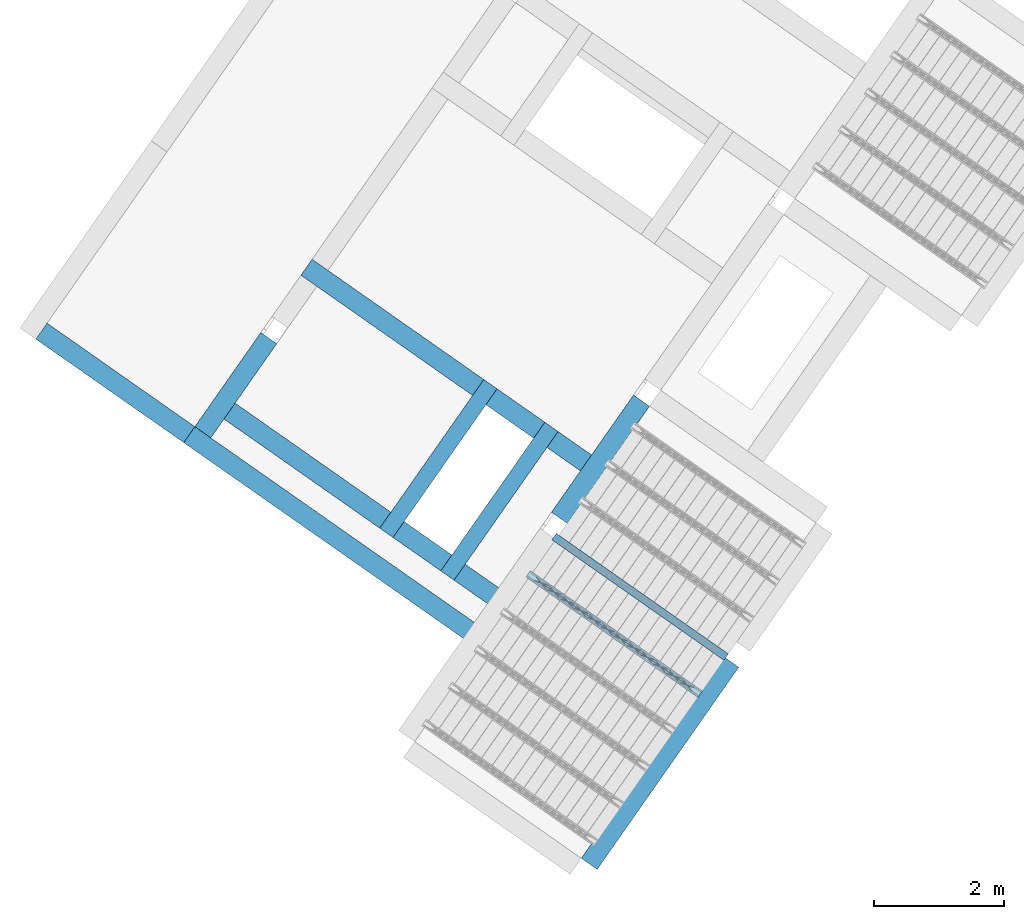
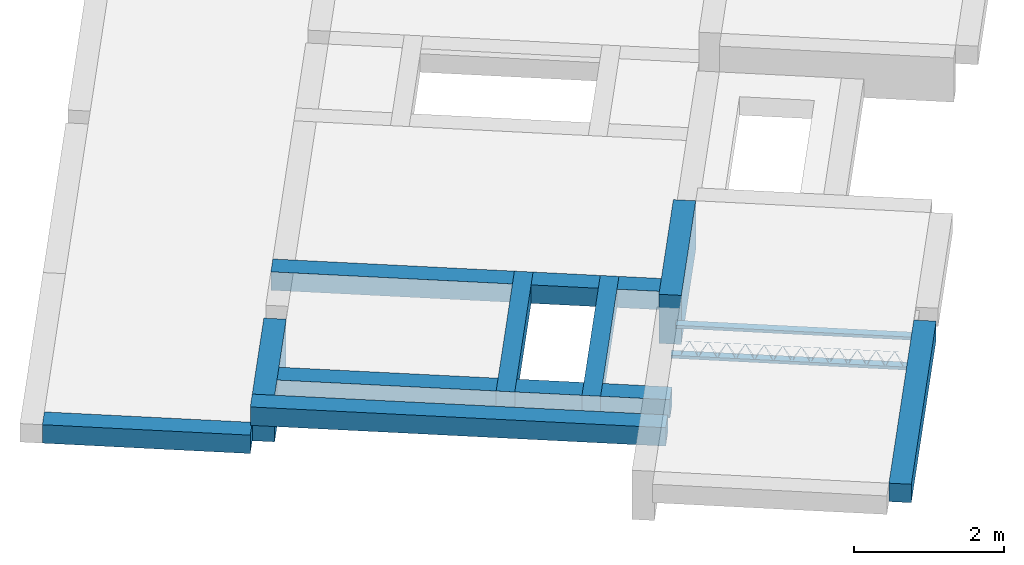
# One storey, part 10 of 46: 11 beams.
"""IFC2X3 building model written with IfcOpenShell, lengths in metres."""

from ifc_helpers import new_model, entity, si_unit, converted_unit, derived_unit, direction, frame, frame_2d, origin, origin_2d_with_axis, place, context, subcontext, project, spatial, rectangle, circle, extrude, material, type_object, element, save


model = new_model("IFC2X3")

# Units and contexts
model_context = context("Model", 3, precision=1e-05, world=origin(), true_north=direction((6.123031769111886e-17, 1.0)))
body_context = subcontext(model_context, "Body", "Model", "MODEL_VIEW")
ifc_project = project(units=[si_unit("LENGTHUNIT", "METRE"), si_unit("AREAUNIT", "SQUARE_METRE"), si_unit("VOLUMEUNIT", "CUBIC_METRE"), converted_unit("PLANEANGLEUNIT", "DEGREE", entity("IfcPlaneAngleMeasure", 0.017453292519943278), si_unit("PLANEANGLEUNIT", "RADIAN"), dimensions=[0, 0, 0, 0, 0, 0, 0]), si_unit("MASSUNIT", "GRAM", prefix="KILO"), derived_unit("MASSDENSITYUNIT", [(si_unit("MASSUNIT", "GRAM", prefix="KILO"), 1), (si_unit("LENGTHUNIT", "METRE"), -3)]), derived_unit("IONCONCENTRATIONUNIT", [(si_unit("MASSUNIT", "GRAM", prefix="KILO"), 1), (si_unit("LENGTHUNIT", "METRE"), -3)]), derived_unit("MOMENTOFINERTIAUNIT", [(si_unit("LENGTHUNIT", "METRE"), 4)]), si_unit("TIMEUNIT", "SECOND"), si_unit("FREQUENCYUNIT", "HERTZ"), si_unit("THERMODYNAMICTEMPERATUREUNIT", "DEGREE_CELSIUS"), derived_unit("THERMALTRANSMITTANCEUNIT", [(si_unit("MASSUNIT", "GRAM", prefix="KILO"), 1), (si_unit("THERMODYNAMICTEMPERATUREUNIT", "KELVIN"), -1), (si_unit("TIMEUNIT", "SECOND"), -3)]), derived_unit("THERMALCONDUCTANCEUNIT", [(si_unit("MASSUNIT", "GRAM", prefix="KILO"), 1), (si_unit("THERMODYNAMICTEMPERATUREUNIT", "KELVIN"), -1), (si_unit("TIMEUNIT", "SECOND"), -3), (si_unit("LENGTHUNIT", "METRE"), 1)]), derived_unit("VOLUMETRICFLOWRATEUNIT", [(si_unit("LENGTHUNIT", "METRE", prefix="DECI"), 3), (si_unit("TIMEUNIT", "SECOND"), -1)]), derived_unit("MASSFLOWRATEUNIT", [(si_unit("MASSUNIT", "GRAM", prefix="KILO"), 1), (si_unit("TIMEUNIT", "SECOND"), -1)]), derived_unit("ROTATIONALFREQUENCYUNIT", [(si_unit("TIMEUNIT", "SECOND"), -1)]), si_unit("ELECTRICCURRENTUNIT", "AMPERE"), si_unit("ELECTRICVOLTAGEUNIT", "VOLT"), si_unit("POWERUNIT", "WATT"), si_unit("FORCEUNIT", "NEWTON", prefix="KILO"), si_unit("ILLUMINANCEUNIT", "LUX"), si_unit("LUMINOUSFLUXUNIT", "LUMEN"), si_unit("LUMINOUSINTENSITYUNIT", "CANDELA"), si_unit("ENERGYUNIT", "JOULE"), derived_unit("USERDEFINED", [(si_unit("MASSUNIT", "GRAM", prefix="KILO"), -1), (si_unit("LENGTHUNIT", "METRE"), -2), (si_unit("TIMEUNIT", "SECOND"), 3), (si_unit("LUMINOUSFLUXUNIT", "LUMEN"), 1)]), derived_unit("USERDEFINED", [(si_unit("MASSUNIT", "GRAM", prefix="KILO"), 1), (si_unit("TIMEUNIT", "SECOND"), -3), (si_unit("LENGTHUNIT", "METRE"), 3), (si_unit("ELECTRICCURRENTUNIT", "AMPERE"), -2)]), derived_unit("SOUNDPOWERUNIT", [(si_unit("MASSUNIT", "GRAM", prefix="KILO"), 1), (si_unit("TIMEUNIT", "SECOND"), -3), (si_unit("LENGTHUNIT", "METRE"), 2)]), derived_unit("SOUNDPRESSUREUNIT", [(si_unit("MASSUNIT", "GRAM", prefix="KILO"), 1), (si_unit("LENGTHUNIT", "METRE"), -1), (si_unit("TIMEUNIT", "SECOND"), -2)]), derived_unit("LINEARVELOCITYUNIT", [(si_unit("LENGTHUNIT", "METRE"), 1), (si_unit("TIMEUNIT", "SECOND"), -1)]), si_unit("PRESSUREUNIT", "PASCAL"), derived_unit("USERDEFINED", [(si_unit("MASSUNIT", "GRAM", prefix="KILO"), 1), (si_unit("LENGTHUNIT", "METRE"), -2), (si_unit("TIMEUNIT", "SECOND"), -2)]), derived_unit("LINEARFORCEUNIT", [(si_unit("MASSUNIT", "GRAM", prefix="KILO"), 1), (si_unit("TIMEUNIT", "SECOND"), -2)]), derived_unit("PLANARFORCEUNIT", [(si_unit("MASSUNIT", "GRAM", prefix="KILO"), 1), (si_unit("LENGTHUNIT", "METRE"), -1), (si_unit("TIMEUNIT", "SECOND"), -2)]), derived_unit("SPECIFICHEATCAPACITYUNIT", [(si_unit("THERMODYNAMICTEMPERATUREUNIT", "KELVIN"), -1), (si_unit("LENGTHUNIT", "METRE"), 2), (si_unit("TIMEUNIT", "SECOND"), -2)]), derived_unit("HEATFLUXDENSITYUNIT", [(si_unit("MASSUNIT", "GRAM", prefix="KILO"), 1), (si_unit("TIMEUNIT", "SECOND"), -3)]), derived_unit("HEATINGVALUEUNIT", [(si_unit("LENGTHUNIT", "METRE"), 2), (si_unit("TIMEUNIT", "SECOND"), -2)]), derived_unit("VAPORPERMEABILITYUNIT", [(si_unit("LENGTHUNIT", "METRE"), -1), (si_unit("TIMEUNIT", "SECOND"), 1)]), derived_unit("DYNAMICVISCOSITYUNIT", [(si_unit("MASSUNIT", "GRAM", prefix="KILO"), 1), (si_unit("TIMEUNIT", "SECOND"), -1), (si_unit("LENGTHUNIT", "METRE"), -1)]), derived_unit("THERMALEXPANSIONCOEFFICIENTUNIT", [(si_unit("THERMODYNAMICTEMPERATUREUNIT", "KELVIN"), -1)]), derived_unit("MODULUSOFELASTICITYUNIT", [(si_unit("MASSUNIT", "GRAM", prefix="KILO"), 1), (si_unit("LENGTHUNIT", "METRE"), -1), (si_unit("TIMEUNIT", "SECOND"), -2)]), derived_unit("ISOTHERMALMOISTURECAPACITYUNIT", [(si_unit("MASSUNIT", "GRAM", prefix="KILO"), -1), (si_unit("LENGTHUNIT", "METRE"), 3)]), derived_unit("MOISTUREDIFFUSIVITYUNIT", [(si_unit("TIMEUNIT", "SECOND"), -1), (si_unit("LENGTHUNIT", "METRE"), 2)]), derived_unit("MASSPERLENGTHUNIT", [(si_unit("MASSUNIT", "GRAM", prefix="KILO"), 1), (si_unit("LENGTHUNIT", "METRE"), -1)]), derived_unit("THERMALRESISTANCEUNIT", [(si_unit("MASSUNIT", "GRAM", prefix="KILO"), -1), (si_unit("TIMEUNIT", "SECOND"), 3), (si_unit("THERMODYNAMICTEMPERATUREUNIT", "KELVIN"), 1)]), derived_unit("ACCELERATIONUNIT", [(si_unit("LENGTHUNIT", "METRE"), 1), (si_unit("TIMEUNIT", "SECOND"), -2)]), derived_unit("ANGULARVELOCITYUNIT", [(si_unit("TIMEUNIT", "SECOND"), -1), (si_unit("PLANEANGLEUNIT", "RADIAN"), 1)]), derived_unit("LINEARSTIFFNESSUNIT", [(si_unit("MASSUNIT", "GRAM", prefix="KILO"), 1), (si_unit("TIMEUNIT", "SECOND"), -2)]), derived_unit("WARPINGCONSTANTUNIT", [(si_unit("LENGTHUNIT", "METRE"), 6)]), derived_unit("LINEARMOMENTUNIT", [(si_unit("MASSUNIT", "GRAM", prefix="KILO"), 1), (si_unit("LENGTHUNIT", "METRE"), 1), (si_unit("TIMEUNIT", "SECOND"), -2)]), derived_unit("TORQUEUNIT", [(si_unit("MASSUNIT", "GRAM", prefix="KILO"), 1), (si_unit("LENGTHUNIT", "METRE"), 2), (si_unit("TIMEUNIT", "SECOND"), -2)])], contexts=[model_context])

# Site, building, storey
site_placement = place(None, origin())
site = spatial("IfcSite", under=ifc_project, at=site_placement, Name="Default", CompositionType="ELEMENT")
building_placement = place(site_placement, origin())
building = spatial("IfcBuilding", under=site, at=building_placement, CompositionType="ELEMENT")
storey_placement = place(building_placement, frame((0.0, 0.0, 99.52000000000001)))
storey = spatial("IfcBuildingStorey", under=building, at=storey_placement, Name="F1", CompositionType="ELEMENT", Elevation=99.52000000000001)

# Beams
beam_type = type_object("IfcBeamType", Name="Vigueta 5 (Paño 4) (Mf = 14.09)", PredefinedType="JOIST")
beam_1_placement = place(storey_placement, origin())
element("IfcBeam", 1, at=beam_1_placement, inside=storey, type_object=beam_type, Name="Vigueta 5 (Paño 4) (Mf = 14.09)", ObjectType="Mf = 14.09", context=body_context, shape_type="SweptSolid", body=[
    extrude(rectangle(XDim=3.2400000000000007, YDim=0.12000000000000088, at=frame_2d((-4.440892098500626e-16, -3.400058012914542e-16), x_axis=(1.0, 0.0))), frame((7.388459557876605, -2.4263677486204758, 0.2000000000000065), z_axis=(0.0, 0.0, 1.0), x_axis=(0.8191520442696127, -0.5735764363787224, 0.0)), (0.0, 0.0, 1.0), 0.04999999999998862),
    extrude(circle(Radius=0.0025, at=origin_2d_with_axis()), frame((6.060444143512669, -1.54042922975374, 0.22500000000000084), z_axis=(0.8191520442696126, -0.5735764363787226, 0.0), x_axis=(-0.5735764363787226, -0.8191520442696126, 0.0)), (0.0, 0.0, 1.0), 3.191999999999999),
    extrude(circle(Radius=0.0025, at=origin_2d_with_axis()), frame((6.221167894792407, -1.609021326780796, 0.4500000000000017), z_axis=(0.8191520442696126, -0.5735764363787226, 0.0), x_axis=(-0.5735764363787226, -0.8191520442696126, 0.0)), (0.0, 0.0, 1.0), 2.849999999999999),
    extrude(circle(Radius=0.0025, at=origin_2d_with_axis()), frame((8.59653887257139, -3.316221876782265, 0.22500000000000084), z_axis=(-0.3145304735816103, 0.389334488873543, 0.8657304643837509), x_axis=(-0.7778747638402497, -0.6284193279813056, 0.0)), (0.0, 0.0, 1.0), 0.2598961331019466),
    extrude(circle(Radius=0.0025, at=origin_2d_with_axis()), frame((8.391750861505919, -3.1728277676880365, 0.22499999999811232), z_axis=(0.47343050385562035, -0.1624017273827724, 0.8657304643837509), x_axis=(-0.3244721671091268, -0.9458952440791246, 0.0)), (0.0, 0.0, 1.0), 0.25989613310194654),
    extrude(circle(Radius=0.0025, at=origin_2d_with_axis()), frame((8.391750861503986, -3.172827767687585, 0.22500000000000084), z_axis=(-0.3145304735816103, 0.389334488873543, 0.8657304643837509), x_axis=(-0.7778747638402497, -0.6284193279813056, 0.0)), (0.0, 0.0, 1.0), 0.2598961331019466),
    extrude(circle(Radius=0.0025, at=origin_2d_with_axis()), frame((8.186962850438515, -3.0294336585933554, 0.22499999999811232), z_axis=(0.47343050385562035, -0.1624017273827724, 0.8657304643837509), x_axis=(-0.3244721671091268, -0.9458952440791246, 0.0)), (0.0, 0.0, 1.0), 0.25989613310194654),
    extrude(circle(Radius=0.0025, at=origin_2d_with_axis()), frame((8.186962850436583, -3.029433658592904, 0.22500000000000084), z_axis=(-0.3145304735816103, 0.389334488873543, 0.8657304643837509), x_axis=(-0.7778747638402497, -0.6284193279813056, 0.0)), (0.0, 0.0, 1.0), 0.2598961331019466),
    extrude(circle(Radius=0.0025, at=origin_2d_with_axis()), frame((7.982174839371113, -2.8860395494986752, 0.22499999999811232), z_axis=(0.47343050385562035, -0.1624017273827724, 0.8657304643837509), x_axis=(-0.3244721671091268, -0.9458952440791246, 0.0)), (0.0, 0.0, 1.0), 0.25989613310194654),
    extrude(circle(Radius=0.0025, at=origin_2d_with_axis()), frame((7.98217483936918, -2.886039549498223, 0.22500000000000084), z_axis=(-0.3145304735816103, 0.389334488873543, 0.8657304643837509), x_axis=(-0.7778747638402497, -0.6284193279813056, 0.0)), (0.0, 0.0, 1.0), 0.2598961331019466),
    extrude(circle(Radius=0.0025, at=origin_2d_with_axis()), frame((7.77738682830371, -2.742645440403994, 0.22499999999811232), z_axis=(0.47343050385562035, -0.1624017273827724, 0.8657304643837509), x_axis=(-0.3244721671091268, -0.9458952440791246, 0.0)), (0.0, 0.0, 1.0), 0.25989613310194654),
    extrude(circle(Radius=0.0025, at=origin_2d_with_axis()), frame((7.777386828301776, -2.742645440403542, 0.22500000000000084), z_axis=(-0.3145304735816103, 0.389334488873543, 0.8657304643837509), x_axis=(-0.7778747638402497, -0.6284193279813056, 0.0)), (0.0, 0.0, 1.0), 0.2598961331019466),
    extrude(circle(Radius=0.0025, at=origin_2d_with_axis()), frame((7.572598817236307, -2.5992513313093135, 0.22499999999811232), z_axis=(0.47343050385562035, -0.1624017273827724, 0.8657304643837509), x_axis=(-0.3244721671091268, -0.9458952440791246, 0.0)), (0.0, 0.0, 1.0), 0.25989613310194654),
    extrude(circle(Radius=0.0025, at=origin_2d_with_axis()), frame((7.572598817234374, -2.599251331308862, 0.22500000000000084), z_axis=(-0.3145304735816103, 0.389334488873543, 0.8657304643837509), x_axis=(-0.7778747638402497, -0.6284193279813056, 0.0)), (0.0, 0.0, 1.0), 0.2598961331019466),
    extrude(circle(Radius=0.0025, at=origin_2d_with_axis()), frame((7.367810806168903, -2.4558572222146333, 0.22499999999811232), z_axis=(0.47343050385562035, -0.1624017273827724, 0.8657304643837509), x_axis=(-0.3244721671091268, -0.9458952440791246, 0.0)), (0.0, 0.0, 1.0), 0.25989613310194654),
    extrude(circle(Radius=0.0025, at=origin_2d_with_axis()), frame((7.36781080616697, -2.4558572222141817, 0.22500000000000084), z_axis=(-0.3145304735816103, 0.389334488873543, 0.8657304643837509), x_axis=(-0.7778747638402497, -0.6284193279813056, 0.0)), (0.0, 0.0, 1.0), 0.2598961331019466),
    extrude(circle(Radius=0.0025, at=origin_2d_with_axis()), frame((7.1630227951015, -2.3124631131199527, 0.22499999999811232), z_axis=(0.47343050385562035, -0.1624017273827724, 0.8657304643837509), x_axis=(-0.3244721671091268, -0.9458952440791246, 0.0)), (0.0, 0.0, 1.0), 0.25989613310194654),
    extrude(circle(Radius=0.0025, at=origin_2d_with_axis()), frame((7.163022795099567, -2.3124631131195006, 0.22500000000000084), z_axis=(-0.3145304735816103, 0.389334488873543, 0.8657304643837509), x_axis=(-0.7778747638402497, -0.6284193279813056, 0.0)), (0.0, 0.0, 1.0), 0.2598961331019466),
    extrude(circle(Radius=0.0025, at=origin_2d_with_axis()), frame((6.958234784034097, -2.169069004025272, 0.22499999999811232), z_axis=(0.47343050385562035, -0.1624017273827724, 0.8657304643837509), x_axis=(-0.3244721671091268, -0.9458952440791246, 0.0)), (0.0, 0.0, 1.0), 0.25989613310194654),
    extrude(circle(Radius=0.0025, at=origin_2d_with_axis()), frame((6.9582347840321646, -2.16906900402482, 0.22500000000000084), z_axis=(-0.3145304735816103, 0.389334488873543, 0.8657304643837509), x_axis=(-0.7778747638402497, -0.6284193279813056, 0.0)), (0.0, 0.0, 1.0), 0.2598961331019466),
    extrude(circle(Radius=0.0025, at=origin_2d_with_axis()), frame((6.753446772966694, -2.0256748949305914, 0.22499999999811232), z_axis=(0.47343050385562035, -0.1624017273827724, 0.8657304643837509), x_axis=(-0.3244721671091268, -0.9458952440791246, 0.0)), (0.0, 0.0, 1.0), 0.25989613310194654),
    extrude(circle(Radius=0.0025, at=origin_2d_with_axis()), frame((6.753446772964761, -2.0256748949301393, 0.22500000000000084), z_axis=(-0.3145304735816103, 0.389334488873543, 0.8657304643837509), x_axis=(-0.7778747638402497, -0.6284193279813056, 0.0)), (0.0, 0.0, 1.0), 0.2598961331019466),
    extrude(circle(Radius=0.0025, at=origin_2d_with_axis()), frame((6.54865876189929, -1.882280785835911, 0.22499999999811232), z_axis=(0.47343050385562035, -0.1624017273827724, 0.8657304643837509), x_axis=(-0.3244721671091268, -0.9458952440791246, 0.0)), (0.0, 0.0, 1.0), 0.25989613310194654),
    extrude(circle(Radius=0.0025, at=origin_2d_with_axis()), frame((6.548658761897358, -1.8822807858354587, 0.22500000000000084), z_axis=(-0.3145304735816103, 0.389334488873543, 0.8657304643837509), x_axis=(-0.7778747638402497, -0.6284193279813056, 0.0)), (0.0, 0.0, 1.0), 0.2598961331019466),
    extrude(circle(Radius=0.0025, at=origin_2d_with_axis()), frame((6.343870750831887, -1.7388866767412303, 0.22499999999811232), z_axis=(0.47343050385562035, -0.1624017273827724, 0.8657304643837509), x_axis=(-0.3244721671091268, -0.9458952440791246, 0.0)), (0.0, 0.0, 1.0), 0.25989613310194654),
    extrude(circle(Radius=0.0025, at=origin_2d_with_axis()), frame((6.3438707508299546, -1.7388866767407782, 0.22500000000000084), z_axis=(-0.3145304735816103, 0.389334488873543, 0.8657304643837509), x_axis=(-0.7778747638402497, -0.6284193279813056, 0.0)), (0.0, 0.0, 1.0), 0.2598961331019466),
    extrude(circle(Radius=0.0025, at=origin_2d_with_axis()), frame((6.1390827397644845, -1.5954925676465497, 0.22499999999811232), z_axis=(0.47343050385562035, -0.1624017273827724, 0.8657304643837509), x_axis=(-0.3244721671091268, -0.9458952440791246, 0.0)), (0.0, 0.0, 1.0), 0.25989613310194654),
    extrude(circle(Radius=0.0025, at=origin_2d_with_axis()), frame((6.101741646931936, -1.4814502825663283, 0.22500000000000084), z_axis=(0.8191520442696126, -0.5735764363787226, 0.0), x_axis=(-0.5735764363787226, -0.8191520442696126, 0.0)), (0.0, 0.0, 1.0), 3.191999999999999),
    extrude(circle(Radius=0.0025, at=origin_2d_with_axis()), frame((8.637836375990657, -3.2572429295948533, 0.22500000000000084), z_axis=(-0.47343050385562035, 0.1624017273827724, 0.8657304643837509), x_axis=(-0.3244721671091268, -0.9458952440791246, 0.0)), (0.0, 0.0, 1.0), 0.25989613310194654),
    extrude(circle(Radius=0.0025, at=origin_2d_with_axis()), frame((8.433048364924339, -3.1138488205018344, 0.22499999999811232), z_axis=(0.3145304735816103, -0.389334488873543, 0.8657304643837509), x_axis=(-0.7778747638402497, -0.6284193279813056, 0.0)), (0.0, 0.0, 1.0), 0.2598961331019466),
    extrude(circle(Radius=0.0025, at=origin_2d_with_axis()), frame((8.433048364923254, -3.113848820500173, 0.22500000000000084), z_axis=(-0.47343050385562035, 0.1624017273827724, 0.8657304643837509), x_axis=(-0.3244721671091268, -0.9458952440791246, 0.0)), (0.0, 0.0, 1.0), 0.25989613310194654),
    extrude(circle(Radius=0.0025, at=origin_2d_with_axis()), frame((8.228260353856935, -2.970454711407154, 0.22499999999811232), z_axis=(0.3145304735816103, -0.389334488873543, 0.8657304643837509), x_axis=(-0.7778747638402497, -0.6284193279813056, 0.0)), (0.0, 0.0, 1.0), 0.2598961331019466),
    extrude(circle(Radius=0.0025, at=origin_2d_with_axis()), frame((8.228260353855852, -2.970454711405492, 0.22500000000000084), z_axis=(-0.47343050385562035, 0.1624017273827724, 0.8657304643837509), x_axis=(-0.3244721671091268, -0.9458952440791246, 0.0)), (0.0, 0.0, 1.0), 0.25989613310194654),
    extrude(circle(Radius=0.0025, at=origin_2d_with_axis()), frame((8.023472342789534, -2.8270606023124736, 0.22499999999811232), z_axis=(0.3145304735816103, -0.389334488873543, 0.8657304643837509), x_axis=(-0.7778747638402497, -0.6284193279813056, 0.0)), (0.0, 0.0, 1.0), 0.2598961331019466),
    extrude(circle(Radius=0.0025, at=origin_2d_with_axis()), frame((8.023472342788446, -2.8270606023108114, 0.22500000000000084), z_axis=(-0.47343050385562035, 0.1624017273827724, 0.8657304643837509), x_axis=(-0.3244721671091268, -0.9458952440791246, 0.0)), (0.0, 0.0, 1.0), 0.25989613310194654),
    extrude(circle(Radius=0.0025, at=origin_2d_with_axis()), frame((7.818684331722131, -2.6836664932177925, 0.22499999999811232), z_axis=(0.3145304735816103, -0.389334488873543, 0.8657304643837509), x_axis=(-0.7778747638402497, -0.6284193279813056, 0.0)), (0.0, 0.0, 1.0), 0.2598961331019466),
    extrude(circle(Radius=0.0025, at=origin_2d_with_axis()), frame((7.818684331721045, -2.6836664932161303, 0.22500000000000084), z_axis=(-0.47343050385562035, 0.1624017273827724, 0.8657304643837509), x_axis=(-0.3244721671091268, -0.9458952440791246, 0.0)), (0.0, 0.0, 1.0), 0.25989613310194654),
    extrude(circle(Radius=0.0025, at=origin_2d_with_axis()), frame((7.613896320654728, -2.540272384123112, 0.22499999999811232), z_axis=(0.3145304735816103, -0.389334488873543, 0.8657304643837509), x_axis=(-0.7778747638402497, -0.6284193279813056, 0.0)), (0.0, 0.0, 1.0), 0.2598961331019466),
    extrude(circle(Radius=0.0025, at=origin_2d_with_axis()), frame((7.613896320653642, -2.54027238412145, 0.22500000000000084), z_axis=(-0.47343050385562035, 0.1624017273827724, 0.8657304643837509), x_axis=(-0.3244721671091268, -0.9458952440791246, 0.0)), (0.0, 0.0, 1.0), 0.25989613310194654),
    extrude(circle(Radius=0.0025, at=origin_2d_with_axis()), frame((7.409108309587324, -2.396878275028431, 0.22499999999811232), z_axis=(0.3145304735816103, -0.389334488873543, 0.8657304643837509), x_axis=(-0.7778747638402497, -0.6284193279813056, 0.0)), (0.0, 0.0, 1.0), 0.2598961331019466),
    extrude(circle(Radius=0.0025, at=origin_2d_with_axis()), frame((7.409108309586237, -2.3968782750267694, 0.22500000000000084), z_axis=(-0.47343050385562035, 0.1624017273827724, 0.8657304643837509), x_axis=(-0.3244721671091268, -0.9458952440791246, 0.0)), (0.0, 0.0, 1.0), 0.25989613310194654),
    extrude(circle(Radius=0.0025, at=origin_2d_with_axis()), frame((7.204320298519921, -2.2534841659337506, 0.22499999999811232), z_axis=(0.3145304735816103, -0.389334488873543, 0.8657304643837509), x_axis=(-0.7778747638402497, -0.6284193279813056, 0.0)), (0.0, 0.0, 1.0), 0.2598961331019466),
    extrude(circle(Radius=0.0025, at=origin_2d_with_axis()), frame((7.204320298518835, -2.253484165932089, 0.22500000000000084), z_axis=(-0.47343050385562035, 0.1624017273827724, 0.8657304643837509), x_axis=(-0.3244721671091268, -0.9458952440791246, 0.0)), (0.0, 0.0, 1.0), 0.25989613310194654),
    extrude(circle(Radius=0.0025, at=origin_2d_with_axis()), frame((6.999532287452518, -2.1100900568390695, 0.22499999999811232), z_axis=(0.3145304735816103, -0.389334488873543, 0.8657304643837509), x_axis=(-0.7778747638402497, -0.6284193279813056, 0.0)), (0.0, 0.0, 1.0), 0.2598961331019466),
    extrude(circle(Radius=0.0025, at=origin_2d_with_axis()), frame((6.999532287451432, -2.110090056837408, 0.22500000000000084), z_axis=(-0.47343050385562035, 0.1624017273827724, 0.8657304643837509), x_axis=(-0.3244721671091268, -0.9458952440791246, 0.0)), (0.0, 0.0, 1.0), 0.25989613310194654),
    extrude(circle(Radius=0.0025, at=origin_2d_with_axis()), frame((6.7947442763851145, -1.9666959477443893, 0.22499999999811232), z_axis=(0.3145304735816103, -0.389334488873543, 0.8657304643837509), x_axis=(-0.7778747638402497, -0.6284193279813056, 0.0)), (0.0, 0.0, 1.0), 0.2598961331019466),
    extrude(circle(Radius=0.0025, at=origin_2d_with_axis()), frame((6.794744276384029, -1.9666959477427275, 0.22500000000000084), z_axis=(-0.47343050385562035, 0.1624017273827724, 0.8657304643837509), x_axis=(-0.3244721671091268, -0.9458952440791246, 0.0)), (0.0, 0.0, 1.0), 0.25989613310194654),
    extrude(circle(Radius=0.0025, at=origin_2d_with_axis()), frame((6.589956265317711, -1.8233018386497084, 0.22499999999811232), z_axis=(0.3145304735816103, -0.389334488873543, 0.8657304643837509), x_axis=(-0.7778747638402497, -0.6284193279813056, 0.0)), (0.0, 0.0, 1.0), 0.2598961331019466),
    extrude(circle(Radius=0.0025, at=origin_2d_with_axis()), frame((6.589956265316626, -1.8233018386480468, 0.22500000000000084), z_axis=(-0.47343050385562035, 0.1624017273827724, 0.8657304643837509), x_axis=(-0.3244721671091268, -0.9458952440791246, 0.0)), (0.0, 0.0, 1.0), 0.25989613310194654),
    extrude(circle(Radius=0.0025, at=origin_2d_with_axis()), frame((6.385168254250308, -1.6799077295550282, 0.22499999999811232), z_axis=(0.3145304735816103, -0.389334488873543, 0.8657304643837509), x_axis=(-0.7778747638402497, -0.6284193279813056, 0.0)), (0.0, 0.0, 1.0), 0.2598961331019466),
    extrude(circle(Radius=0.0025, at=origin_2d_with_axis()), frame((6.385168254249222, -1.6799077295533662, 0.22500000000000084), z_axis=(-0.47343050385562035, 0.1624017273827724, 0.8657304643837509), x_axis=(-0.3244721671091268, -0.9458952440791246, 0.0)), (0.0, 0.0, 1.0), 0.25989613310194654),
    extrude(circle(Radius=0.0025, at=origin_2d_with_axis()), frame((6.180380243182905, -1.5365136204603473, 0.22499999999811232), z_axis=(0.3145304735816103, -0.389334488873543, 0.8657304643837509), x_axis=(-0.7778747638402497, -0.6284193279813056, 0.0)), (0.0, 0.0, 1.0), 0.2598961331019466),
])
ifc_material = material(Name="Hormigón armado")
beam_2_placement = place(storey_placement, origin())
element("IfcBeam", 2, at=beam_2_placement, inside=storey, material=ifc_material, Name="238292", context=body_context, shape_type="SweptSolid", body=[
    extrude(rectangle(XDim=0.04999999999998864, YDim=0.12000000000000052, at=frame_2d((0.0, 5.863365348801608e-16), x_axis=(1.0, 0.0))), frame((6.462936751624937, -0.9237674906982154, 0.22500000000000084), z_axis=(0.8191520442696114, -0.5735764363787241, 0.0), x_axis=(0.0, 0.0, -1.0)), (0.0, 0.0, 1.0), 3.240000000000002),
])
beam_3_placement = place(storey_placement, origin())
element("IfcBeam", 3, at=beam_3_placement, inside=storey, material=ifc_material, Name="Viga 1 (30x30)", ObjectType="30x30", context=body_context, shape_type="SweptSolid", body=[
    extrude(rectangle(XDim=0.3000000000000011, YDim=0.2999999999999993, at=frame_2d((0.0, 0.0), x_axis=(0.0, 1.0))), frame((7.004400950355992, -5.973588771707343, 0.3500000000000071), z_axis=(0.5735764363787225, 0.8191520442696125, 0.0), x_axis=(-0.8191520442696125, 0.5735764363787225, 0.0)), (0.0, 0.0, 1.0), 3.809968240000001),
])
beam_4_placement = place(storey_placement, origin())
element("IfcBeam", 4, at=beam_4_placement, inside=storey, material=ifc_material, Name="Viga 6 (30x80)", ObjectType="30x80", context=body_context, shape_type="SweptSolid", body=[
    extrude(rectangle(XDim=0.7999999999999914, YDim=0.3000000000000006, at=frame_2d((0.0, -2.7755575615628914e-17), x_axis=(1.0, 0.0))), frame((6.543898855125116, -0.6337969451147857, 0.10000000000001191), z_axis=(0.5735764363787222, 0.8191520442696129, 0.0), x_axis=(0.0, 0.0, 1.0)), (0.0, 0.0, 1.0), 2.21003176),
])
beam_5_placement = place(storey_placement, origin())
element("IfcBeam", 5, at=beam_5_placement, inside=storey, material=ifc_material, Name="Viga 10 (30x76)", ObjectType="30x76", context=body_context, shape_type="SweptSolid", body=[
    extrude(rectangle(XDim=0.7600000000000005, YDim=0.3000000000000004, at=frame_2d((0.0, 1.3877787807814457e-16), x_axis=(1.0, 0.0))), frame((1.040913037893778, 0.6873381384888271, -0.3800000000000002), z_axis=(0.5735764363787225, 0.8191520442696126, 0.0), x_axis=(0.0, 0.0, 1.0)), (0.0, 0.0, 1.0), 1.7741724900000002),
])
beam_6_placement = place(storey_placement, origin())
element("IfcBeam", 6, at=beam_6_placement, inside=storey, material=ifc_material, Name="Viga 12 (30x30)", ObjectType="30x30", context=body_context, shape_type="SweptSolid", body=[
    extrude(rectangle(XDim=0.3000000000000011, YDim=0.30000000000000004, at=frame_2d((0.0, 0.0), x_axis=(0.0, 1.0))), frame((0.831921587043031, 0.6503844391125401, -0.15000000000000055), z_axis=(0.8191520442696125, -0.5735764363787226, 0.0), x_axis=(0.5735764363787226, 0.8191520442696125, 0.0)), (0.0, 0.0, 1.0), 5.565554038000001),
])
beam_7_placement = place(storey_placement, origin())
element("IfcBeam", 7, at=beam_7_placement, inside=storey, material=ifc_material, Name="Viga 16 (30x30)", ObjectType="30x30", context=body_context, shape_type="SweptSolid", body=[
    extrude(rectangle(XDim=0.3000000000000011, YDim=0.29999999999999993, at=frame_2d((0.0, 8.326672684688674e-17), x_axis=(1.0, 0.0))), frame((-1.4488806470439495, 2.2475991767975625, -0.61), z_axis=(0.8191520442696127, -0.5735764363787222, 0.0), x_axis=(0.0, 0.0, 1.0)), (0.0, 0.0, 1.0), 2.784448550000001),
])
beam_8_placement = place(storey_placement, origin())
element("IfcBeam", 8, at=beam_8_placement, inside=storey, material=ifc_material, Name="Viga 32 (25x30)", ObjectType="25x30", context=body_context, shape_type="SweptSolid", body=[
    extrude(rectangle(XDim=0.3000000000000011, YDim=0.25000000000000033, at=frame_2d((0.0, -2.220446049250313e-16), x_axis=(1.0, 0.0))), frame((4.815526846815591, -1.5237043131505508, -0.15000000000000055), z_axis=(0.5735764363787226, 0.8191520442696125, 0.0), x_axis=(0.0, 0.0, 1.0)), (0.0, 0.0, 1.0), 2.8003546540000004),
])
beam_9_placement = place(storey_placement, origin())
element("IfcBeam", 9, at=beam_9_placement, inside=storey, material=ifc_material, Name="Viga 33 (25x30)", ObjectType="25x30", context=body_context, shape_type="SweptSolid", body=[
    extrude(rectangle(XDim=0.3000000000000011, YDim=0.25000000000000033, at=frame_2d((0.0, 0.0), x_axis=(0.0, 1.0))), frame((3.8735019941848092, -0.8640914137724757, -0.15000000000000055), z_axis=(0.5735764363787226, 0.8191520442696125, 0.0), x_axis=(-0.8191520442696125, 0.5735764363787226, 0.0)), (0.0, 0.0, 1.0), 2.800354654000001),
])
beam_10_placement = place(storey_placement, origin())
element("IfcBeam", 10, at=beam_10_placement, inside=storey, material=ifc_material, Name="Viga 34 (30x30)", ObjectType="30x30", context=body_context, shape_type="SweptSolid", body=[
    extrude(rectangle(XDim=0.3000000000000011, YDim=0.29999999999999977, at=frame_2d((0.0, 8.326672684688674e-17), x_axis=(1.0, 0.0))), frame((1.2070364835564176, 1.186104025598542, -0.15000000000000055), z_axis=(0.8191520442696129, -0.5735764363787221, 0.0), x_axis=(0.0, 0.0, 1.0)), (0.0, 0.0, 1.0), 5.565554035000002),
])
beam_11_placement = place(storey_placement, origin())
element("IfcBeam", 11, at=beam_11_placement, inside=storey, material=ifc_material, Name="Viga 35 (30x30)", ObjectType="30x30", context=body_context, shape_type="SweptSolid", body=[
    extrude(rectangle(XDim=0.3000000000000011, YDim=0.2999999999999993, at=frame_2d((0.0, -4.440892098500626e-16), x_axis=(1.0, 0.0))), frame((2.641180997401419, 3.2342746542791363, -0.15000000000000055), z_axis=(0.8191520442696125, -0.5735764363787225, 0.0), x_axis=(0.0, 0.0, 1.0)), (0.0, 0.0, 1.0), 5.565554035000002),
])

save(model, "model.ifc")
